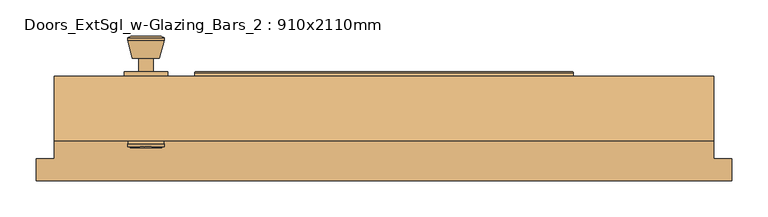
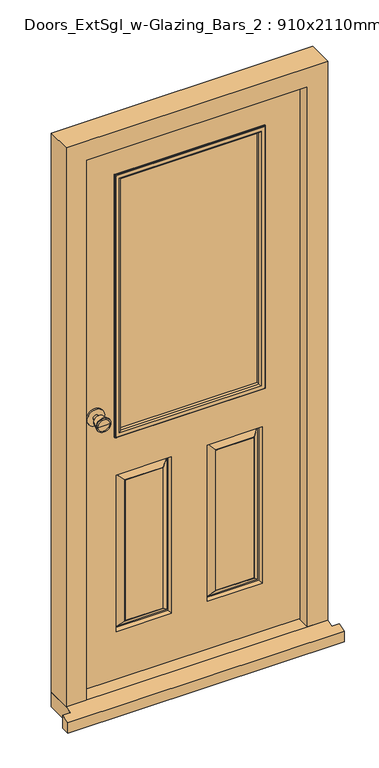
"""IFC4 building model written with IfcOpenShell, lengths in millimetres: door geometry, Doors_ExtSgl_w-Glazing_Bars_2 : 910x2110mm."""

from ifc_helpers import new_model, si_unit, point, frame, frame_2d, origin, place, context, project, spatial, polyline, circle_curve, ellipse_curve, trimmed, segment, composite_curve, outline, extrude, faceted_brep, source, transform, mapped, element, save
from ifc_brep_helpers import plane_surface, cylinder_surface, revolved_surface, advanced_brep


def doors_extsgl_w_glazing_bars_2_910x2110mm_80f539a4(model_context):
    return source(origin(), model_context, "Body", "SolidModel", [
        advanced_brep(
        [(-328.5, -10.0, 1050.0), (-338.5, -10.0, 1050.0), (-318.5, -10.0, 1050.0), (-308.0241324, 39.0, 1050.0), (-348.9758676, 39.0, 1050.0), (-328.5, 39.0, 1050.0), (-303.5, 37.1721319, 1050.0), (-353.5, 37.1721319, 1050.0), (-303.5, 33.7084537, 1050.0), (-353.5, 33.7084537, 1050.0), (-309.863764, 9.0, 1050.0), (-347.136236, 9.0, 1050.0), (-318.5, 9.0, 1050.0), (-338.5, 9.0, 1050.0)],
        [
            (0, 1),
            (1, 2, circle_curve(frame((-328.5, -10.0, 1050.0), z_axis=(0.0, -1.0, 0.0), x_axis=(-1.0, 0.0, 0.0)), 10.0)),
            (2, 0),
            (2, 1, circle_curve(frame((-328.5, -10.0, 1050.0), z_axis=(0.0, -1.0, 0.0), x_axis=(-1.0, 0.0, 0.0)), 10.0)),
            (3, 4, circle_curve(frame((-328.5, 39.0, 1050.0), z_axis=(0.0, 1.0, 0.0), x_axis=(-1.0, 0.0, 0.0)), 20.4758676)),
            (4, 5),
            (5, 3),
            (4, 3, circle_curve(frame((-328.5, 39.0, 1050.0), z_axis=(0.0, 1.0, 0.0), x_axis=(-1.0, 0.0, 0.0)), 20.4758676)),
            (6, 7, circle_curve(frame((-328.5, 37.1721319, 1050.0), z_axis=(0.0, 1.0, 0.0), x_axis=(-1.0, 0.0, 0.0)), 25.0)),
            (7, 4),
            (3, 6),
            (7, 6, circle_curve(frame((-328.5, 37.1721319, 1050.0), z_axis=(0.0, 1.0, 0.0), x_axis=(-1.0, 0.0, 0.0)), 25.0)),
            (8, 9, circle_curve(frame((-328.5, 33.7084537, 1050.0), z_axis=(0.0, 1.0, 0.0), x_axis=(-1.0, 0.0, 0.0)), 25.0)),
            (9, 7),
            (6, 8),
            (9, 8, circle_curve(frame((-328.5, 33.7084537, 1050.0), z_axis=(0.0, 1.0, 0.0), x_axis=(-1.0, 0.0, 0.0)), 25.0)),
            (10, 11, circle_curve(frame((-328.5, 9.0, 1050.0), z_axis=(0.0, 1.0, 0.0), x_axis=(-1.0, 0.0, 0.0)), 18.636236)),
            (11, 9),
            (8, 10),
            (11, 10, circle_curve(frame((-328.5, 9.0, 1050.0), z_axis=(0.0, 1.0, 0.0), x_axis=(-1.0, 0.0, 0.0)), 18.636236)),
            (12, 13, circle_curve(frame((-328.5, 9.0, 1050.0), z_axis=(0.0, 1.0, 0.0), x_axis=(-1.0, 0.0, 0.0)), 10.0)),
            (13, 11),
            (10, 12),
            (13, 12, circle_curve(frame((-328.5, 9.0, 1050.0), z_axis=(0.0, 1.0, 0.0), x_axis=(-1.0, 0.0, 0.0)), 10.0)),
            (1, 13),
            (12, 2),
        ],
        [
            plane_surface(frame((-328.5, -10.0, 1050.0), z_axis=(0.0, -1.0, 0.0), x_axis=(-1.0, 0.0, 0.0))),
            plane_surface(frame((-328.5, 39.0, 1050.0), z_axis=(0.0, 1.0, 0.0), x_axis=(-1.0, 0.0, 0.0))),
            revolved_surface(polyline([(-348.9758676, 39.0, 1050.0), (-353.5, 37.1721319, 1050.0)]), (-328.5, -10.0, 1050.0), (0.0, -1.0, 0.0)),
            cylinder_surface(frame((-328.5, -10.0, 1050.0), z_axis=(0.0, -1.0, 0.0), x_axis=(-1.0, 0.0, 0.0)), 25.0),
            revolved_surface(polyline([(-353.5, 33.7084537, 1050.0), (-347.136236, 9.0, 1050.0)]), (-328.5, -10.0, 1050.0), (0.0, -1.0, 0.0)),
            plane_surface(frame((-328.5, 9.0, 1050.0), z_axis=(0.0, -1.0, 0.0), x_axis=(-1.0, 0.0, 0.0))),
            cylinder_surface(frame((-328.5, -10.0, 1050.0), z_axis=(0.0, -1.0, 0.0), x_axis=(-1.0, 0.0, 0.0)), 10.0),
        ],
        [
            (0, [[1, 2, 3]]),
            (0, [[-3, 4, -1]]),
            (1, [[5, 6, 7]]),
            (1, [[8, -7, -6]]),
            (2, [[9, 10, -5, 11]]),
            (2, [[12, -11, -8, -10]]),
            (3, [[13, 14, -9, 15]]),
            (3, [[16, -15, -12, -14]]),
            (4, [[17, 18, -13, 19]]),
            (4, [[20, -19, -16, -18]]),
            (5, [[21, 22, -17, 23]]),
            (5, [[24, -23, -20, -22]]),
            (6, [[-2, 25, -21, 26]]),
            (6, [[-4, -26, -24, -25]]),
        ],
    ),
        extrude(outline(composite_curve([segment(trimmed(circle_curve(frame_2d((1050.0, -328.5)), 30.0), [point((1050.0, -358.5))], [point((1050.0, -298.5))], False, "CARTESIAN"), True, "CONTINUOUS"), segment(trimmed(circle_curve(frame_2d((1050.0, -328.5)), 30.0), [point((1050.0, -298.5))], [point((1050.0, -358.5))], False, "CARTESIAN"), True, "CONTINUOUS")], self_intersect=False)), frame((0.0, -16.0, 0.0), z_axis=(0.0, 1.0, 0.0), x_axis=(0.0, 0.0, 1.0)), (0.0, 0.0, 1.0), 6.0),
        advanced_brep(
        [(-328.5, -66.0, 1050.0), (-318.5, -66.0, 1050.0), (-338.5, -66.0, 1050.0), (-308.0241324, -115.0, 1050.0), (-328.5, -115.0, 1050.0), (-348.9758676, -115.0, 1050.0), (-303.5, -113.1721319, 1050.0), (-353.5, -113.1721319, 1050.0), (-303.5, -109.7084537, 1050.0), (-353.5, -109.7084537, 1050.0), (-309.863764, -85.0, 1050.0), (-347.136236, -85.0, 1050.0), (-318.5, -85.0, 1050.0), (-338.5, -85.0, 1050.0)],
        [
            (0, 1),
            (1, 2, circle_curve(frame((-328.5, -66.0, 1050.0), z_axis=(0.0, 1.0, 0.0), x_axis=(-1.0, 0.0, 0.0)), 10.0)),
            (2, 0),
            (2, 1, circle_curve(frame((-328.5, -66.0, 1050.0), z_axis=(0.0, 1.0, 0.0), x_axis=(-1.0, 0.0, 0.0)), 10.0)),
            (3, 4),
            (4, 5),
            (5, 3, circle_curve(frame((-328.5, -115.0, 1050.0), z_axis=(0.0, -1.0, 0.0), x_axis=(-1.0, 0.0, 0.0)), 20.4758676)),
            (3, 5, circle_curve(frame((-328.5, -115.0, 1050.0), z_axis=(0.0, -1.0, 0.0), x_axis=(-1.0, 0.0, 0.0)), 20.4758676)),
            (6, 3),
            (5, 7),
            (7, 6, circle_curve(frame((-328.5, -113.1721319, 1050.0), z_axis=(0.0, -1.0, 0.0), x_axis=(-1.0, 0.0, 0.0)), 25.0)),
            (6, 7, circle_curve(frame((-328.5, -113.1721319, 1050.0), z_axis=(0.0, -1.0, 0.0), x_axis=(-1.0, 0.0, 0.0)), 25.0)),
            (8, 6),
            (7, 9),
            (9, 8, circle_curve(frame((-328.5, -109.7084537, 1050.0), z_axis=(0.0, -1.0, 0.0), x_axis=(-1.0, 0.0, 0.0)), 25.0)),
            (8, 9, circle_curve(frame((-328.5, -109.7084537, 1050.0), z_axis=(0.0, -1.0, 0.0), x_axis=(-1.0, 0.0, 0.0)), 25.0)),
            (10, 8),
            (9, 11),
            (11, 10, circle_curve(frame((-328.5, -85.0, 1050.0), z_axis=(0.0, -1.0, 0.0), x_axis=(-1.0, 0.0, 0.0)), 18.636236)),
            (10, 11, circle_curve(frame((-328.5, -85.0, 1050.0), z_axis=(0.0, -1.0, 0.0), x_axis=(-1.0, 0.0, 0.0)), 18.636236)),
            (12, 10),
            (11, 13),
            (13, 12, circle_curve(frame((-328.5, -85.0, 1050.0), z_axis=(0.0, -1.0, 0.0), x_axis=(-1.0, 0.0, 0.0)), 10.0)),
            (12, 13, circle_curve(frame((-328.5, -85.0, 1050.0), z_axis=(0.0, -1.0, 0.0), x_axis=(-1.0, 0.0, 0.0)), 10.0)),
            (1, 12),
            (13, 2),
        ],
        [
            plane_surface(frame((-328.5, -66.0, 1050.0), z_axis=(0.0, 1.0, 0.0), x_axis=(-1.0, 0.0, 0.0))),
            plane_surface(frame((-328.5, -115.0, 1050.0), z_axis=(0.0, -1.0, 0.0), x_axis=(-1.0, 0.0, 0.0))),
            revolved_surface(polyline([(-348.9758676, -115.0, 1050.0), (-353.5, -113.1721319, 1050.0)]), (-328.5, -66.0, 1050.0), (0.0, 1.0, 0.0)),
            cylinder_surface(frame((-328.5, -66.0, 1050.0), z_axis=(0.0, 1.0, 0.0), x_axis=(-1.0, 0.0, 0.0)), 25.0),
            revolved_surface(polyline([(-353.5, -109.7084537, 1050.0), (-347.136236, -85.0, 1050.0)]), (-328.5, -66.0, 1050.0), (0.0, 1.0, 0.0)),
            plane_surface(frame((-328.5, -85.0, 1050.0), z_axis=(0.0, 1.0, 0.0), x_axis=(-1.0, 0.0, 0.0))),
            cylinder_surface(frame((-328.5, -66.0, 1050.0), z_axis=(0.0, 1.0, 0.0), x_axis=(-1.0, 0.0, 0.0)), 10.0),
        ],
        [
            (0, [[1, 2, 3]]),
            (0, [[-3, 4, -1]]),
            (1, [[5, 6, 7]]),
            (1, [[-6, -5, 8]]),
            (2, [[9, -7, 10, 11]]),
            (2, [[-10, -8, -9, 12]]),
            (3, [[13, -11, 14, 15]]),
            (3, [[-14, -12, -13, 16]]),
            (4, [[17, -15, 18, 19]]),
            (4, [[-18, -16, -17, 20]]),
            (5, [[21, -19, 22, 23]]),
            (5, [[-22, -20, -21, 24]]),
            (6, [[25, -23, 26, -2]]),
            (6, [[-26, -24, -25, -4]]),
        ],
    ),
        extrude(outline(composite_curve([segment(trimmed(circle_curve(frame_2d((1050.0, -328.5)), 30.0), [point((1050.0, -358.5))], [point((1050.0, -298.5))], False, "CARTESIAN"), True, "CONTINUOUS"), segment(trimmed(circle_curve(frame_2d((1050.0, -328.5)), 30.0), [point((1050.0, -298.5))], [point((1050.0, -358.5))], False, "CARTESIAN"), True, "CONTINUOUS")], self_intersect=False)), frame((0.0, -66.0, 0.0), z_axis=(0.0, 1.0, 0.0), x_axis=(0.0, 0.0, 1.0)), (0.0, 0.0, 1.0), 6.0),
        faceted_brep([(384.5, -105.0, 54.5), (384.5, -63.0, 54.5), (406.5, -63.0, 54.5), (406.5, -16.0, 54.5), (455.0, -16.0, 54.5), (455.0, -105.0, 54.5), (455.0, -105.0, 2110.0), (-455.0, -105.0, 2110.0), (-455.0, -105.0, 54.5), (-384.5, -105.0, 54.5), (-384.5, -105.0, 2039.5), (384.5, -105.0, 2039.5), (455.0, -16.0, 2110.0), (406.5, -16.0, 2061.5), (-406.5, -16.0, 2061.5), (-406.5, -16.0, 54.5), (-455.0, -16.0, 54.5), (-455.0, -16.0, 2110.0), (406.5, -63.0, 2061.5), (384.5, -63.0, 2039.5), (-384.5, -63.0, 2039.5), (-384.5, -63.0, 54.5), (-406.5, -63.0, 54.5), (-406.5, -63.0, 2061.5)], [[[0, 1, 2, 3, 4, 5]], [[5, 6, 7, 8, 9, 10, 11, 0]], [[4, 12, 6, 5]], [[3, 13, 14, 15, 16, 17, 12, 4]], [[2, 18, 13, 3]], [[1, 19, 20, 21, 22, 23, 18, 2]], [[0, 11, 19, 1]], [[9, 21, 20, 10]], [[8, 16, 15, 22, 21, 9]], [[7, 17, 16, 8]], [[14, 23, 22, 15]], [[6, 12, 17, 7]], [[13, 18, 23, 14]], [[10, 20, 19, 11]]]),
        extrude(outline(polyline([(-253.5, -50.0), (-253.5, -26.0), (253.5, -26.0), (253.5, -50.0), (-253.5, -50.0)])), frame((0.0, 0.0, 958.5), z_axis=(0.0, 0.0, 1.0), x_axis=(1.0, 0.0, 0.0)), (0.0, 0.0, 1.0), 950.0),
        faceted_brep([(480.0, -160.0, 0.0), (480.0, -130.0, 0.0), (480.0, -130.0, 47.2703282), (480.0, -160.0, 38.5947221), (-480.0, -160.0, 38.5947221), (-480.0, -130.0, 47.2703282), (-480.0, -130.0, 0.0), (-480.0, -160.0, 0.0), (-455.0, -130.0, 0.0), (-455.0, -16.0, 0.0), (455.0, -16.0, 0.0), (455.0, -130.0, 0.0), (455.0, -130.0, 47.2703282), (455.0, -105.0, 54.5), (-455.0, -105.0, 54.5), (-455.0, -130.0, 47.2703282), (455.0, -16.0, 54.5), (-455.0, -16.0, 54.5)], [[[0, 1, 2, 3]], [[4, 5, 6, 7]], [[7, 6, 8, 9, 10, 11, 1, 0]], [[3, 4, 7, 0]], [[3, 2, 12, 13, 14, 15, 5, 4]], [[14, 13, 16, 17]], [[17, 16, 10, 9]], [[15, 14, 17, 9, 8]], [[8, 6, 5, 15]], [[11, 10, 16, 13, 12]], [[12, 2, 1, 11]]]),
        faceted_brep([(403.5, -16.0, 58.5), (-404.4250294, -16.0, 58.5), (-404.4250294, -16.0, 2058.5), (403.5, -16.0, 2058.5), (-253.5, -16.0, 958.5), (253.5, -16.0, 958.5), (253.5, -16.0, 1908.5), (-253.5, -16.0, 1908.5), (-62.5, -16.0, 808.5), (-253.5, -16.0, 808.5), (-253.5, -16.0, 233.5), (-62.5, -16.0, 233.5), (253.5, -16.0, 808.5), (62.5, -16.0, 808.5), (62.5, -16.0, 233.5), (253.5, -16.0, 233.5), (-92.5, -16.0, 263.5), (-223.5, -16.0, 263.5), (-223.5, -16.0, 778.5), (-92.5, -16.0, 778.5), (223.5, -16.0, 263.5), (92.5, -16.0, 263.5), (92.5, -16.0, 778.5), (223.5, -16.0, 778.5), (403.5, -60.0, 58.5), (403.5, -60.0, 2058.5), (-404.4250294, -60.0, 2058.5), (-404.4250294, -60.0, 58.5), (-253.5, -60.0, 958.5), (-253.5, -60.0, 1908.5), (253.5, -60.0, 1908.5), (253.5, -60.0, 958.5), (62.5, -60.0, 808.5), (253.5, -60.0, 808.5), (253.5, -60.0, 233.5), (62.5, -60.0, 233.5), (-253.5, -60.0, 808.5), (-62.5, -60.0, 808.5), (-62.5, -60.0, 233.5), (-253.5, -60.0, 233.5), (92.5, -60.0, 263.5), (223.5, -60.0, 263.5), (223.5, -60.0, 778.5), (92.5, -60.0, 778.5), (-223.5, -60.0, 263.5), (-92.5, -60.0, 263.5), (-92.5, -60.0, 778.5), (-223.5, -60.0, 778.5), (65.5, -45.0, 805.5), (65.5, -45.0, 236.5), (90.5, -59.0, 780.5), (70.5, -45.0, 800.5), (70.5, -45.0, 241.5), (90.5, -59.0, 261.5), (92.5, -59.0, 778.5), (92.5, -59.0, 263.5), (250.5, -45.0, 236.5), (245.5, -45.0, 241.5), (225.5, -59.0, 261.5), (223.5, -59.0, 263.5), (250.5, -45.0, 805.5), (245.5, -45.0, 800.5), (225.5, -59.0, 780.5), (223.5, -59.0, 778.5), (-250.5, -45.0, 805.5), (-250.5, -45.0, 236.5), (-225.5, -59.0, 780.5), (-245.5, -45.0, 800.5), (-245.5, -45.0, 241.5), (-225.5, -59.0, 261.5), (-223.5, -59.0, 778.5), (-223.5, -59.0, 263.5), (-65.5, -45.0, 236.5), (-70.5, -45.0, 241.5), (-90.5, -59.0, 261.5), (-92.5, -59.0, 263.5), (-65.5, -45.0, 805.5), (-70.5, -45.0, 800.5), (-90.5, -59.0, 780.5), (-92.5, -59.0, 778.5), (-92.5, -17.0, 263.5), (-92.5, -17.0, 778.5), (-70.5, -31.0, 241.5), (-90.5, -17.0, 261.5), (-90.5, -17.0, 780.5), (-70.5, -31.0, 800.5), (-65.5, -31.0, 236.5), (-65.5, -31.0, 805.5), (-223.5, -17.0, 778.5), (-225.5, -17.0, 780.5), (-245.5, -31.0, 800.5), (-250.5, -31.0, 805.5), (-223.5, -17.0, 263.5), (-225.5, -17.0, 261.5), (-245.5, -31.0, 241.5), (-250.5, -31.0, 236.5), (250.5, -31.0, 805.5), (250.5, -31.0, 236.5), (225.5, -17.0, 780.5), (245.5, -31.0, 800.5), (245.5, -31.0, 241.5), (225.5, -17.0, 261.5), (223.5, -17.0, 778.5), (223.5, -17.0, 263.5), (65.5, -31.0, 236.5), (70.5, -31.0, 241.5), (90.5, -17.0, 261.5), (92.5, -17.0, 263.5), (65.5, -31.0, 805.5), (70.5, -31.0, 800.5), (90.5, -17.0, 780.5), (92.5, -17.0, 778.5)], [[[0, 1, 2, 3], [4, 5, 6, 7], [8, 9, 10, 11], [12, 13, 14, 15]], [[16, 17, 18, 19]], [[20, 21, 22, 23]], [[24, 25, 26, 27], [28, 29, 30, 31], [32, 33, 34, 35], [36, 37, 38, 39]], [[40, 41, 42, 43]], [[44, 45, 46, 47]], [[3, 25, 24, 0]], [[2, 26, 25, 3]], [[1, 27, 26, 2]], [[0, 24, 27, 1]], [[7, 29, 28, 4]], [[6, 30, 29, 7]], [[5, 31, 30, 6]], [[4, 28, 31, 5]], [[48, 32, 35, 49]], [[50, 51, 52, 53]], [[40, 43, 54, 55]], [[35, 34, 56, 49]], [[52, 57, 58, 53]], [[55, 59, 41, 40]], [[34, 33, 60, 56]], [[57, 61, 62, 58]], [[59, 63, 42, 41]], [[48, 60, 33, 32]], [[49, 56, 60, 48], [51, 61, 57, 52]], [[50, 62, 61, 51]], [[53, 58, 62, 50], [54, 63, 59, 55]], [[43, 42, 63, 54]], [[64, 36, 39, 65]], [[66, 67, 68, 69]], [[44, 47, 70, 71]], [[39, 38, 72, 65]], [[68, 73, 74, 69]], [[71, 75, 45, 44]], [[38, 37, 76, 72]], [[73, 77, 78, 74]], [[75, 79, 46, 45]], [[64, 76, 37, 36]], [[65, 72, 76, 64], [67, 77, 73, 68]], [[66, 78, 77, 67]], [[69, 74, 78, 66], [70, 79, 75, 71]], [[47, 46, 79, 70]], [[80, 16, 19, 81]], [[82, 83, 84, 85]], [[8, 11, 86, 87]], [[19, 18, 88, 81]], [[84, 89, 90, 85]], [[87, 91, 9, 8]], [[18, 17, 92, 88]], [[89, 93, 94, 90]], [[91, 95, 10, 9]], [[80, 92, 17, 16]], [[83, 93, 89, 84], [81, 88, 92, 80]], [[82, 94, 93, 83]], [[86, 95, 91, 87], [85, 90, 94, 82]], [[11, 10, 95, 86]], [[96, 12, 15, 97]], [[98, 99, 100, 101]], [[20, 23, 102, 103]], [[15, 14, 104, 97]], [[100, 105, 106, 101]], [[103, 107, 21, 20]], [[14, 13, 108, 104]], [[105, 109, 110, 106]], [[107, 111, 22, 21]], [[96, 108, 13, 12]], [[97, 104, 108, 96], [99, 109, 105, 100]], [[98, 110, 109, 99]], [[101, 106, 110, 98], [102, 111, 107, 103]], [[23, 22, 111, 102]]]),
        advanced_brep(
        [(261.5, -12.0, 950.5), (261.5, -12.0, 1916.5), (261.5, -16.0, 1916.5), (261.5, -16.0, 950.5), (259.5, -10.0, 952.5), (259.5, -10.0, 1914.5), (241.5, -15.0, 970.5), (241.5, -15.0, 1896.5), (246.5, -10.0, 1901.5), (246.5, -10.0, 965.5), (241.5, -26.0, 970.5), (241.5, -26.0, 1896.5), (253.5, -16.0, 958.5), (253.5, -16.0, 1908.5), (253.5, -26.0, 1908.5), (253.5, -26.0, 958.5), (-261.5, -12.0, 1916.5), (-261.5, -16.0, 1916.5), (-259.5, -10.0, 1914.5), (-241.5, -15.0, 1896.5), (-246.5, -10.0, 1901.5), (-241.5, -26.0, 1896.5), (-253.5, -16.0, 1908.5), (-253.5, -26.0, 1908.5), (-261.5, -12.0, 950.5), (-261.5, -16.0, 950.5), (-259.5, -10.0, 952.5), (-241.5, -15.0, 970.5), (-246.5, -10.0, 965.5), (-241.5, -26.0, 970.5), (-253.5, -16.0, 958.5), (-253.5, -26.0, 958.5)],
        [
            (0, 1),
            (1, 2),
            (2, 3),
            (3, 0),
            (4, 5),
            (5, 1, ellipse_curve(frame((259.5, -12.0, 1914.5), z_axis=(0.7071067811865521, 0.0, -0.7071067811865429), x_axis=(-0.7071067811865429, 0.0, -0.7071067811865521)), 2.8284271, 2.0)),
            (0, 4, ellipse_curve(frame((259.5, -12.0, 952.5), z_axis=(0.7071067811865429, 0.0, 0.707106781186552), x_axis=(0.7071067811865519, 0.0, -0.707106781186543)), 2.8284271, 2.0)),
            (6, 7),
            (7, 8, ellipse_curve(frame((246.5, -15.0, 1901.5), z_axis=(0.7071067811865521, 0.0, -0.7071067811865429), x_axis=(-0.7071067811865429, 0.0, -0.7071067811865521)), 7.0710678, 5.0)),
            (8, 9),
            (9, 6, ellipse_curve(frame((246.5, -15.0, 965.5), z_axis=(0.7071067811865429, 0.0, 0.707106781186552), x_axis=(0.7071067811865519, 0.0, -0.707106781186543)), 7.0710678, 5.0)),
            (10, 11),
            (11, 7),
            (6, 10),
            (12, 13),
            (13, 14),
            (14, 15),
            (15, 12),
            (1, 16),
            (16, 17),
            (17, 2),
            (5, 18),
            (18, 16, ellipse_curve(frame((-259.5, -12.0, 1914.5), z_axis=(0.707106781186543, 0.0, 0.707106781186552), x_axis=(0.707106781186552, 0.0, -0.7071067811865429)), 2.8284271, 2.0)),
            (7, 19),
            (19, 20, ellipse_curve(frame((-246.5, -15.0, 1901.5), z_axis=(0.707106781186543, 0.0, 0.707106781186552), x_axis=(0.707106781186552, 0.0, -0.7071067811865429)), 7.0710678, 5.0)),
            (20, 8),
            (11, 21),
            (21, 19),
            (13, 22),
            (22, 23),
            (23, 14),
            (16, 24),
            (24, 25),
            (25, 17),
            (18, 26),
            (26, 24, ellipse_curve(frame((-259.5, -12.0, 952.5), z_axis=(-0.707106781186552, 0.0, 0.7071067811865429), x_axis=(0.7071067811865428, 0.0, 0.7071067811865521)), 2.8284271, 2.0)),
            (19, 27),
            (27, 28, ellipse_curve(frame((-246.5, -15.0, 965.5), z_axis=(-0.707106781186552, 0.0, 0.7071067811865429), x_axis=(0.7071067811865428, 0.0, 0.7071067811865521)), 7.0710678, 5.0)),
            (28, 20),
            (21, 29),
            (29, 27),
            (22, 30),
            (30, 31),
            (31, 23),
            (24, 0),
            (3, 25),
            (26, 4),
            (28, 9),
            (27, 6),
            (29, 10),
            (31, 15),
            (30, 12),
        ],
        [
            plane_surface(frame((261.5, -16.0, 950.5), z_axis=(1.0, 0.0, 0.0), x_axis=(0.0, 0.0, 1.0))),
            cylinder_surface(frame((259.5, -12.0, 958.5), z_axis=(0.0, 0.0, -1.0), x_axis=(1.0, 0.0, 0.0)), 2.0),
            cylinder_surface(frame((246.5, -15.0, 958.5), z_axis=(0.0, 0.0, -1.0), x_axis=(1.0, 0.0, 0.0)), 5.0),
            plane_surface(frame((241.5, -15.0, 970.5), z_axis=(-1.0, 0.0, 0.0), x_axis=(0.0, 0.0, 1.0))),
            plane_surface(frame((253.5, -26.0, 958.5), z_axis=(1.0, 0.0, 0.0), x_axis=(0.0, 0.0, 1.0))),
            plane_surface(frame((261.5, -16.0, 1916.5), z_axis=(0.0, 0.0, 1.0), x_axis=(-1.0, 0.0, 0.0))),
            cylinder_surface(frame((253.5, -12.0, 1914.5), z_axis=(1.0, 0.0, 0.0), x_axis=(0.0, 0.0, 1.0)), 2.0),
            cylinder_surface(frame((253.5, -15.0, 1901.5), z_axis=(1.0, 0.0, 0.0), x_axis=(0.0, 0.0, 1.0)), 5.0),
            plane_surface(frame((241.5, -15.0, 1896.5), z_axis=(0.0, 0.0, -1.0), x_axis=(-1.0, 0.0, 0.0))),
            plane_surface(frame((253.5, -26.0, 1908.5), z_axis=(0.0, 0.0, 1.0), x_axis=(-1.0, 0.0, 0.0))),
            plane_surface(frame((-261.5, -16.0, 1916.5), z_axis=(-1.0, 0.0, 0.0), x_axis=(0.0, 0.0, -1.0))),
            cylinder_surface(frame((-259.5, -12.0, 1908.5), z_axis=(0.0, 0.0, 1.0), x_axis=(-1.0, 0.0, 0.0)), 2.0),
            cylinder_surface(frame((-246.5, -15.0, 1908.5), z_axis=(0.0, 0.0, 1.0), x_axis=(-1.0, 0.0, 0.0)), 5.0),
            plane_surface(frame((-241.5, -15.0, 1896.5), z_axis=(1.0, 0.0, 0.0), x_axis=(0.0, 0.0, -1.0))),
            plane_surface(frame((-253.5, -26.0, 1908.5), z_axis=(-1.0, 0.0, 0.0), x_axis=(0.0, 0.0, -1.0))),
            plane_surface(frame((-261.5, -16.0, 950.5), z_axis=(0.0, 0.0, -1.0), x_axis=(1.0, 0.0, 0.0))),
            cylinder_surface(frame((-253.5, -12.0, 952.5), z_axis=(-1.0, 0.0, 0.0), x_axis=(0.0, 0.0, -1.0)), 2.0),
            plane_surface(frame((-259.5, -10.0, 952.5), z_axis=(0.0, 1.0, 0.0), x_axis=(1.0, 0.0, 0.0))),
            cylinder_surface(frame((-253.5, -15.0, 965.5), z_axis=(-1.0, 0.0, 0.0), x_axis=(0.0, 0.0, -1.0)), 5.0),
            plane_surface(frame((-241.5, -15.0, 970.5), z_axis=(0.0, 0.0, 1.0), x_axis=(1.0, 0.0, 0.0))),
            plane_surface(frame((-241.5, -26.0, 970.5), z_axis=(0.0, -1.0, 0.0), x_axis=(1.0, 0.0, 0.0))),
            plane_surface(frame((-253.5, -26.0, 958.5), z_axis=(0.0, 0.0, -1.0), x_axis=(1.0, 0.0, 0.0))),
            plane_surface(frame((-253.5, -16.0, 958.5), z_axis=(0.0, -1.0, 0.0), x_axis=(1.0, 0.0, 0.0))),
        ],
        [
            (0, [[1, 2, 3, 4]]),
            (1, [[5, 6, -1, 7]]),
            (2, [[8, 9, 10, 11]]),
            (3, [[12, 13, -8, 14]]),
            (4, [[15, 16, 17, 18]]),
            (5, [[19, 20, 21, -2]]),
            (6, [[22, 23, -19, -6]]),
            (7, [[24, 25, 26, -9]]),
            (8, [[27, 28, -24, -13]]),
            (9, [[29, 30, 31, -16]]),
            (10, [[32, 33, 34, -20]]),
            (11, [[35, 36, -32, -23]]),
            (12, [[37, 38, 39, -25]]),
            (13, [[40, 41, -37, -28]]),
            (14, [[42, 43, 44, -30]]),
            (15, [[45, -4, 46, -33]]),
            (16, [[47, -7, -45, -36]]),
            (17, [[-5, -47, -35, -22], [-10, -26, -39, 48]]),
            (18, [[49, -11, -48, -38]]),
            (19, [[50, -14, -49, -41]]),
            (20, [[-17, -31, -44, 51], [-12, -50, -40, -27]]),
            (21, [[52, -18, -51, -43]]),
            (22, [[-3, -21, -34, -46], [-15, -52, -42, -29]]),
        ],
    ),
        advanced_brep(
        [(-261.5, -64.0, 950.5), (-261.5, -64.0, 1916.5), (-261.5, -60.0, 1916.5), (-261.5, -60.0, 950.5), (-259.5, -66.0, 952.5), (-259.5, -66.0, 1914.5), (-241.5, -61.0, 970.5), (-241.5, -61.0, 1896.5), (-246.5, -66.0, 1901.5), (-246.5, -66.0, 965.5), (-241.5, -50.0, 970.5), (-241.5, -50.0, 1896.5), (-253.5, -60.0, 958.5), (-253.5, -60.0, 1908.5), (-253.5, -50.0, 1908.5), (-253.5, -50.0, 958.5), (261.5, -64.0, 1916.5), (261.5, -60.0, 1916.5), (259.5, -66.0, 1914.5), (241.5, -61.0, 1896.5), (246.5, -66.0, 1901.5), (241.5, -50.0, 1896.5), (253.5, -60.0, 1908.5), (253.5, -50.0, 1908.5), (261.5, -64.0, 950.5), (261.5, -60.0, 950.5), (259.5, -66.0, 952.5), (241.5, -61.0, 970.5), (246.5, -66.0, 965.5), (241.5, -50.0, 970.5), (253.5, -60.0, 958.5), (253.5, -50.0, 958.5)],
        [
            (0, 1),
            (1, 2),
            (2, 3),
            (3, 0),
            (4, 5),
            (5, 1, ellipse_curve(frame((-259.5, -64.0, 1914.5), z_axis=(-0.7071067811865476, 0.0, -0.7071067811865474), x_axis=(0.7071067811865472, 0.0, -0.7071067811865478)), 2.8284271, 2.0)),
            (0, 4, ellipse_curve(frame((-259.5, -64.0, 952.5), z_axis=(-0.7071067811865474, 0.0, 0.7071067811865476), x_axis=(-0.7071067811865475, 0.0, -0.7071067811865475)), 2.8284271, 2.0)),
            (6, 7),
            (7, 8, ellipse_curve(frame((-246.5, -61.0, 1901.5), z_axis=(-0.7071067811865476, 0.0, -0.7071067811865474), x_axis=(0.7071067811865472, 0.0, -0.7071067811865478)), 7.0710678, 5.0)),
            (8, 9),
            (9, 6, ellipse_curve(frame((-246.5, -61.0, 965.5), z_axis=(-0.7071067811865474, 0.0, 0.7071067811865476), x_axis=(-0.7071067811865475, 0.0, -0.7071067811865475)), 7.0710678, 5.0)),
            (10, 11),
            (11, 7),
            (6, 10),
            (12, 13),
            (13, 14),
            (14, 15),
            (15, 12),
            (1, 16),
            (16, 17),
            (17, 2),
            (5, 18),
            (18, 16, ellipse_curve(frame((259.5, -64.0, 1914.5), z_axis=(-0.7071067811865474, 0.0, 0.7071067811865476), x_axis=(-0.7071067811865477, 0.0, -0.7071067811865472)), 2.8284271, 2.0)),
            (7, 19),
            (19, 20, ellipse_curve(frame((246.5, -61.0, 1901.5), z_axis=(-0.7071067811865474, 0.0, 0.7071067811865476), x_axis=(-0.7071067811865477, 0.0, -0.7071067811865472)), 7.0710678, 5.0)),
            (20, 8),
            (11, 21),
            (21, 19),
            (13, 22),
            (22, 23),
            (23, 14),
            (16, 24),
            (24, 25),
            (25, 17),
            (18, 26),
            (26, 24, ellipse_curve(frame((259.5, -64.0, 952.5), z_axis=(0.7071067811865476, 0.0, 0.7071067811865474), x_axis=(-0.7071067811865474, 0.0, 0.7071067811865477)), 2.8284271, 2.0)),
            (19, 27),
            (27, 28, ellipse_curve(frame((246.5, -61.0, 965.5), z_axis=(0.7071067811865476, 0.0, 0.7071067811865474), x_axis=(-0.7071067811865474, 0.0, 0.7071067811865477)), 7.0710678, 5.0)),
            (28, 20),
            (21, 29),
            (29, 27),
            (22, 30),
            (30, 31),
            (31, 23),
            (24, 0),
            (3, 25),
            (26, 4),
            (28, 9),
            (27, 6),
            (29, 10),
            (31, 15),
            (30, 12),
        ],
        [
            plane_surface(frame((-261.5, -60.0, 950.5), z_axis=(-1.0, 0.0, 0.0), x_axis=(0.0, 0.0, 1.0))),
            cylinder_surface(frame((-259.5, -64.0, 958.5), z_axis=(0.0, 0.0, -1.0), x_axis=(-1.0, 0.0, 0.0)), 2.0),
            cylinder_surface(frame((-246.5, -61.0, 958.5), z_axis=(0.0, 0.0, -1.0), x_axis=(-1.0, 0.0, 0.0)), 5.0),
            plane_surface(frame((-241.5, -61.0, 970.5), z_axis=(1.0, 0.0, 0.0), x_axis=(0.0, 0.0, 1.0))),
            plane_surface(frame((-253.5, -50.0, 958.5), z_axis=(-1.0, 0.0, 0.0), x_axis=(0.0, 0.0, 1.0))),
            plane_surface(frame((-261.5, -60.0, 1916.5), z_axis=(0.0, 0.0, 1.0), x_axis=(1.0, 0.0, 0.0))),
            cylinder_surface(frame((-253.5, -64.0, 1914.5), z_axis=(-1.0, 0.0, 0.0), x_axis=(0.0, 0.0, 1.0)), 2.0),
            cylinder_surface(frame((-253.5, -61.0, 1901.5), z_axis=(-1.0, 0.0, 0.0), x_axis=(0.0, 0.0, 1.0)), 5.0),
            plane_surface(frame((-241.5, -61.0, 1896.5), z_axis=(0.0, 0.0, -1.0), x_axis=(1.0, 0.0, 0.0))),
            plane_surface(frame((-253.5, -50.0, 1908.5), z_axis=(0.0, 0.0, 1.0), x_axis=(1.0, 0.0, 0.0))),
            plane_surface(frame((261.5, -60.0, 1916.5), z_axis=(1.0, 0.0, 0.0), x_axis=(0.0, 0.0, -1.0))),
            cylinder_surface(frame((259.5, -64.0, 1908.5), z_axis=(0.0, 0.0, 1.0), x_axis=(1.0, 0.0, 0.0)), 2.0),
            cylinder_surface(frame((246.5, -61.0, 1908.5), z_axis=(0.0, 0.0, 1.0), x_axis=(1.0, 0.0, 0.0)), 5.0),
            plane_surface(frame((241.5, -61.0, 1896.5), z_axis=(-1.0, 0.0, 0.0), x_axis=(0.0, 0.0, -1.0))),
            plane_surface(frame((253.5, -50.0, 1908.5), z_axis=(1.0, 0.0, 0.0), x_axis=(0.0, 0.0, -1.0))),
            plane_surface(frame((261.5, -60.0, 950.5), z_axis=(0.0, 0.0, -1.0), x_axis=(-1.0, 0.0, 0.0))),
            cylinder_surface(frame((253.5, -64.0, 952.5), z_axis=(1.0, 0.0, 0.0), x_axis=(0.0, 0.0, -1.0)), 2.0),
            plane_surface(frame((259.5, -66.0, 952.5), z_axis=(0.0, -1.0, 0.0), x_axis=(-1.0, 0.0, 0.0))),
            cylinder_surface(frame((253.5, -61.0, 965.5), z_axis=(1.0, 0.0, 0.0), x_axis=(0.0, 0.0, -1.0)), 5.0),
            plane_surface(frame((241.5, -61.0, 970.5), z_axis=(0.0, 0.0, 1.0), x_axis=(-1.0, 0.0, 0.0))),
            plane_surface(frame((241.5, -50.0, 970.5), z_axis=(0.0, 1.0, 0.0), x_axis=(-1.0, 0.0, 0.0))),
            plane_surface(frame((253.5, -50.0, 958.5), z_axis=(0.0, 0.0, -1.0), x_axis=(-1.0, 0.0, 0.0))),
            plane_surface(frame((253.5, -60.0, 958.5), z_axis=(0.0, 1.0, 0.0), x_axis=(-1.0, 0.0, 0.0))),
        ],
        [
            (0, [[1, 2, 3, 4]]),
            (1, [[5, 6, -1, 7]]),
            (2, [[8, 9, 10, 11]]),
            (3, [[12, 13, -8, 14]]),
            (4, [[15, 16, 17, 18]]),
            (5, [[19, 20, 21, -2]]),
            (6, [[22, 23, -19, -6]]),
            (7, [[24, 25, 26, -9]]),
            (8, [[27, 28, -24, -13]]),
            (9, [[29, 30, 31, -16]]),
            (10, [[32, 33, 34, -20]]),
            (11, [[35, 36, -32, -23]]),
            (12, [[37, 38, 39, -25]]),
            (13, [[40, 41, -37, -28]]),
            (14, [[42, 43, 44, -30]]),
            (15, [[45, -4, 46, -33]]),
            (16, [[47, -7, -45, -36]]),
            (17, [[-5, -47, -35, -22], [-10, -26, -39, 48]]),
            (18, [[49, -11, -48, -38]]),
            (19, [[50, -14, -49, -41]]),
            (20, [[-17, -31, -44, 51], [-12, -50, -40, -27]]),
            (21, [[52, -18, -51, -43]]),
            (22, [[-3, -21, -34, -46], [-15, -52, -42, -29]]),
        ],
    ),
        extrude(outline(polyline([(958.5, -10.0), (958.5, 10.0), (1423.5, 10.0), (1423.5, 253.5), (1443.5, 253.5), (1443.5, 10.0), (1908.5, 10.0), (1908.5, -10.0), (1443.5, -10.0), (1443.5, -253.5), (1423.5, -253.5), (1423.5, -10.0), (958.5, -10.0)])), frame((0.0, -42.0, 0.0), z_axis=(0.0, 1.0, 0.0), x_axis=(0.0, 0.0, 1.0)), (0.0, 0.0, 1.0), 8.0),
    ])


if __name__ == "__main__":
    model = new_model("IFC4")
    model_context = context("Model", 3, world=origin())
    ifc_project = project(units=[si_unit("LENGTHUNIT", "METRE", prefix="MILLI")], contexts=[model_context])
    site = spatial("IfcSite", under=ifc_project)
    building = spatial("IfcBuilding", under=site)
    placement = place(None, origin())
    doors_extsgl_w_glazing_bars_2_910x2110mm_shape = doors_extsgl_w_glazing_bars_2_910x2110mm_80f539a4(model_context)
    element("IfcDoor", 1, ObjectType="Doors_ExtSgl_w-Glazing_Bars_2 : 910x2110mm", at=placement, inside=building, context=model_context, shape_type="MappedRepresentation", body=[
        mapped(doors_extsgl_w_glazing_bars_2_910x2110mm_shape, transform((0.0, 0.0, 0.0), x_axis=(1.0, 0.0, 0.0), y_axis=(0.0, 1.0, 0.0), z_axis=(0.0, 0.0, 1.0))),
    ])
    save(model, "model.ifc")
